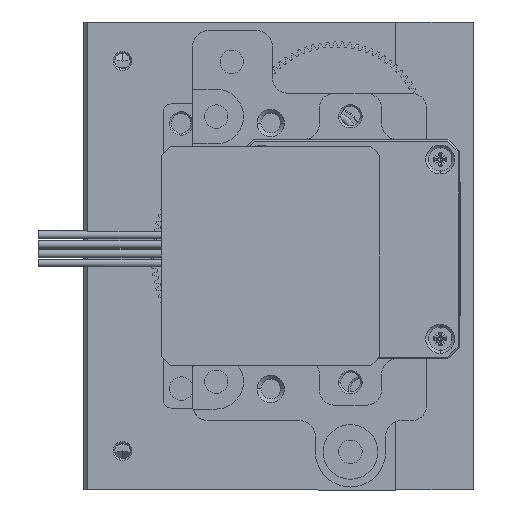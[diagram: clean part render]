
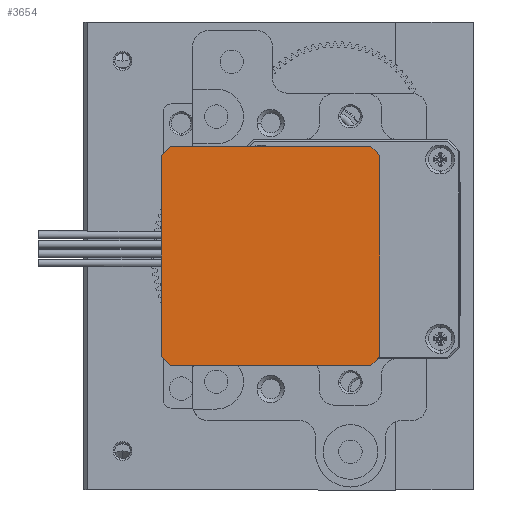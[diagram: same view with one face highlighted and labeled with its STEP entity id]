
A CAD part, left-side view. The second image highlights one B-rep face of the part: STEP entity #3654.
In plain terms, the highlighted planar face has unit normal (-1, 0, 0) as drawn and (0, 0, -1) by its records, which use the part's own axes.
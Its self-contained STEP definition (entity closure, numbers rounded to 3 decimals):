
#1383 = FACE_OUTER_BOUND ( 'NONE', #12338, .T. ) ;
#3654 = ADVANCED_FACE ( 'NONE', ( #1383 ), #15313, .F. ) ;
#12338 = EDGE_LOOP ( 'NONE', ( #34733, #34781, #34806, #31310, #34743, #31214, #34696, #34770 ) ) ;
#13390 = CARTESIAN_POINT ( 'NONE',  ( -14., 14., 0. ) ) ;
#13411 = DIRECTION ( 'NONE',  ( -1., 0., 0. ) ) ;
#13447 = CARTESIAN_POINT ( 'NONE',  ( 0., 0., 0. ) ) ;
#13468 = DIRECTION ( 'NONE',  ( 1., 0., 0. ) ) ;
#13470 = CARTESIAN_POINT ( 'NONE',  ( -14., 14., 0. ) ) ;
#13492 = CARTESIAN_POINT ( 'NONE',  ( 0., 0., 0. ) ) ;
#13524 = DIRECTION ( 'NONE',  ( 0., 0., 1. ) ) ;
#13534 = DIRECTION ( 'NONE',  ( 0., 0., 1. ) ) ;
#13536 = DIRECTION ( 'NONE',  ( 1., 0., 0. ) ) ;
#13594 = DIRECTION ( 'NONE',  ( 0., -1., 0. ) ) ;
#15278 = DIRECTION ( 'NONE',  ( 1., 0., 0. ) ) ;
#15293 = DIRECTION ( 'NONE',  ( 0., 0., 1. ) ) ;
#15307 = CARTESIAN_POINT ( 'NONE',  ( 0., 0., 0. ) ) ;
#15313 = PLANE ( 'NONE',  #34653 ) ;
#17317 = AXIS2_PLACEMENT_3D ( 'NONE', #78292, #78277, #78273 ) ;
#17320 = AXIS2_PLACEMENT_3D ( 'NONE', #78322, #78296, #78301 ) ;
#17332 = AXIS2_PLACEMENT_3D ( 'NONE', #13492, #13534, #13536 ) ;
#17337 = AXIS2_PLACEMENT_3D ( 'NONE', #13447, #13524, #13468 ) ;
#31214 = ORIENTED_EDGE ( 'NONE', *, *, #56569, .F. ) ;
#31310 = ORIENTED_EDGE ( 'NONE', *, *, #56524, .F. ) ;
#34653 = AXIS2_PLACEMENT_3D ( 'NONE', #15307, #15293, #15278 ) ;
#34696 = ORIENTED_EDGE ( 'NONE', *, *, #56564, .F. ) ;
#34733 = ORIENTED_EDGE ( 'NONE', *, *, #56558, .F. ) ;
#34743 = ORIENTED_EDGE ( 'NONE', *, *, #56525, .F. ) ;
#34770 = ORIENTED_EDGE ( 'NONE', *, *, #56552, .F. ) ;
#34781 = ORIENTED_EDGE ( 'NONE', *, *, #56518, .F. ) ;
#34806 = ORIENTED_EDGE ( 'NONE', *, *, #56511, .F. ) ;
#43844 = CIRCLE ( 'NONE', #17317, 19. ) ;
#43874 = VECTOR ( 'NONE', #78307, 1000. ) ;
#43876 = CIRCLE ( 'NONE', #17320, 19. ) ;
#43883 = LINE ( 'NONE', #78324, #43874 ) ;
#43886 = VECTOR ( 'NONE', #78265, 1000. ) ;
#43906 = LINE ( 'NONE', #78264, #43886 ) ;
#43954 = CIRCLE ( 'NONE', #17337, 19. ) ;
#43974 = CIRCLE ( 'NONE', #17332, 19. ) ;
#43984 = VECTOR ( 'NONE', #13594, 1000. ) ;
#43986 = VECTOR ( 'NONE', #13411, 1000. ) ;
#44022 = LINE ( 'NONE', #13390, #43986 ) ;
#44035 = LINE ( 'NONE', #13470, #43984 ) ;
#47166 = CARTESIAN_POINT ( 'NONE',  ( 12.845, -14., 0. ) ) ;
#47183 = CARTESIAN_POINT ( 'NONE',  ( -12.845, -14., 0. ) ) ;
#48282 = CARTESIAN_POINT ( 'NONE',  ( -14., 12.845, 0. ) ) ;
#48284 = CARTESIAN_POINT ( 'NONE',  ( 14., 12.845, 0. ) ) ;
#48289 = CARTESIAN_POINT ( 'NONE',  ( -14., -12.845, 0. ) ) ;
#48295 = CARTESIAN_POINT ( 'NONE',  ( -12.845, 14., 0. ) ) ;
#48302 = CARTESIAN_POINT ( 'NONE',  ( 12.845, 14., 0. ) ) ;
#48321 = CARTESIAN_POINT ( 'NONE',  ( 14., -12.845, 0. ) ) ;
#56511 = EDGE_CURVE ( 'NONE', #70736, #70712, #43844, .T. ) ;
#56518 = EDGE_CURVE ( 'NONE', #70712, #70709, #43906, .T. ) ;
#56524 = EDGE_CURVE ( 'NONE', #70747, #70736, #43883, .T. ) ;
#56525 = EDGE_CURVE ( 'NONE', #70716, #70747, #43876, .T. ) ;
#56552 = EDGE_CURVE ( 'NONE', #70722, #70688, #44022, .T. ) ;
#56558 = EDGE_CURVE ( 'NONE', #70709, #70722, #43974, .T. ) ;
#56564 = EDGE_CURVE ( 'NONE', #70688, #70694, #43954, .T. ) ;
#56569 = EDGE_CURVE ( 'NONE', #70694, #70716, #44035, .T. ) ;
#70688 = VERTEX_POINT ( 'NONE', #48295 ) ;
#70694 = VERTEX_POINT ( 'NONE', #48282 ) ;
#70709 = VERTEX_POINT ( 'NONE', #48284 ) ;
#70712 = VERTEX_POINT ( 'NONE', #48321 ) ;
#70716 = VERTEX_POINT ( 'NONE', #48289 ) ;
#70722 = VERTEX_POINT ( 'NONE', #48302 ) ;
#70736 = VERTEX_POINT ( 'NONE', #47166 ) ;
#70747 = VERTEX_POINT ( 'NONE', #47183 ) ;
#78264 = CARTESIAN_POINT ( 'NONE',  ( 14., 14., 0. ) ) ;
#78265 = DIRECTION ( 'NONE',  ( 0., 1., 0. ) ) ;
#78273 = DIRECTION ( 'NONE',  ( 1., 0., 0. ) ) ;
#78277 = DIRECTION ( 'NONE',  ( 0., 0., 1. ) ) ;
#78292 = CARTESIAN_POINT ( 'NONE',  ( 0., 0., 0. ) ) ;
#78296 = DIRECTION ( 'NONE',  ( 0., 0., 1. ) ) ;
#78301 = DIRECTION ( 'NONE',  ( 1., 0., 0. ) ) ;
#78307 = DIRECTION ( 'NONE',  ( 1., 0., 0. ) ) ;
#78322 = CARTESIAN_POINT ( 'NONE',  ( 0., 0., 0. ) ) ;
#78324 = CARTESIAN_POINT ( 'NONE',  ( -14., -14., 0. ) ) ;
